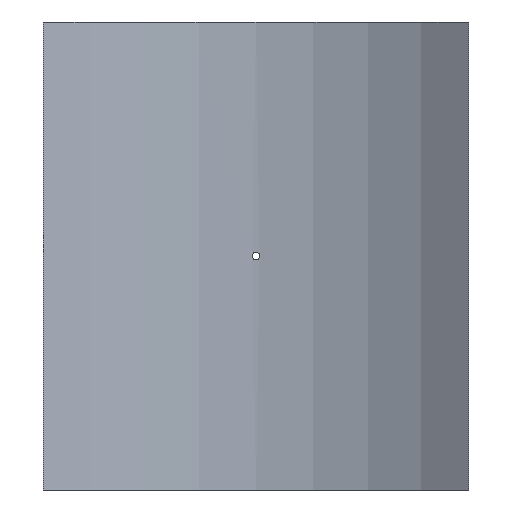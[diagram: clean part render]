
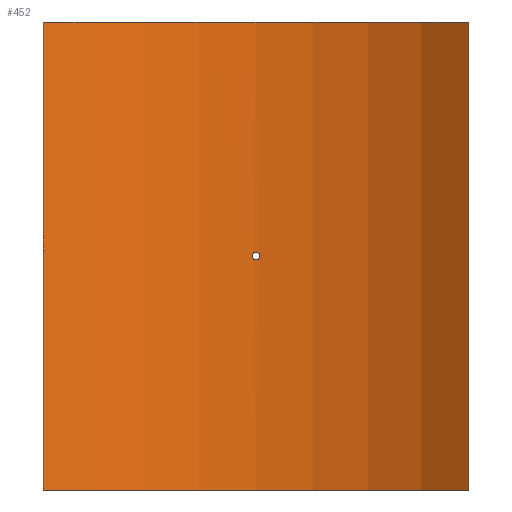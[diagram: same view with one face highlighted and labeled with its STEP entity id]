
A CAD part, front view. The second image highlights one B-rep face of the part: STEP entity #452.
In plain terms, the highlighted cylindrical face has radius 450 mm (diameter 900 mm), a partial arc.
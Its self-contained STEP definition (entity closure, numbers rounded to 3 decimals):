
#19=B_SPLINE_CURVE_WITH_KNOTS('',3,(#788,#789,#790,#791,#792,#793,#794,
#795,#796,#797,#798,#799,#800,#801,#802,#803,#804,#805,#806,#807,#808,#809,
#810,#811,#812,#813,#814,#815,#816,#817,#818,#819,#820,#821),
 .UNSPECIFIED.,.T.,.F.,(4,2,2,2,2,2,2,2,2,2,2,2,2,2,2,2,4),(0.,0.181,
0.362,0.542,0.723,0.904,
1.085,1.266,1.446,1.627,1.808,
1.989,2.17,2.351,2.531,2.712,
2.893),.UNSPECIFIED.);
#43=LINE('',#1081,#62);
#44=LINE('',#1084,#63);
#62=VECTOR('',#661,10.);
#63=VECTOR('',#664,10.);
#76=CYLINDRICAL_SURFACE('',#530,450.);
#88=FACE_BOUND('',#167,.T.);
#127=FACE_OUTER_BOUND('',#166,.T.);
#166=EDGE_LOOP('',(#405,#406,#407,#408));
#167=EDGE_LOOP('',(#409));
#201=CIRCLE('',#529,450.);
#202=CIRCLE('',#531,450.);
#219=VERTEX_POINT('',#786);
#242=VERTEX_POINT('',#1074);
#243=VERTEX_POINT('',#1076);
#244=VERTEX_POINT('',#1080);
#245=VERTEX_POINT('',#1082);
#267=EDGE_CURVE('',#219,#219,#19,.T.);
#299=EDGE_CURVE('',#242,#243,#201,.T.);
#301=EDGE_CURVE('',#244,#242,#43,.T.);
#302=EDGE_CURVE('',#245,#244,#202,.T.);
#303=EDGE_CURVE('',#245,#243,#44,.T.);
#405=ORIENTED_EDGE('',*,*,#301,.F.);
#406=ORIENTED_EDGE('',*,*,#302,.F.);
#407=ORIENTED_EDGE('',*,*,#303,.T.);
#408=ORIENTED_EDGE('',*,*,#299,.F.);
#409=ORIENTED_EDGE('',*,*,#267,.T.);
#452=ADVANCED_FACE('',(#127,#88),#76,.F.);
#529=AXIS2_PLACEMENT_3D('',#1077,#656,#657);
#530=AXIS2_PLACEMENT_3D('',#1079,#659,#660);
#531=AXIS2_PLACEMENT_3D('',#1083,#662,#663);
#656=DIRECTION('center_axis',(0.,0.,1.));
#657=DIRECTION('ref_axis',(0.616,0.788,0.));
#659=DIRECTION('center_axis',(0.,0.,1.));
#660=DIRECTION('ref_axis',(0.616,0.788,0.));
#661=DIRECTION('',(0.,0.,-1.));
#662=DIRECTION('center_axis',(0.,0.,-1.));
#663=DIRECTION('ref_axis',(0.616,0.788,0.));
#664=DIRECTION('',(0.,0.,-1.));
#786=CARTESIAN_POINT('',(4.8,449.974,0.));
#788=CARTESIAN_POINT('Ctrl Pts',(4.8,449.974,0.));
#789=CARTESIAN_POINT('Ctrl Pts',(4.8,449.974,-0.603));
#790=CARTESIAN_POINT('Ctrl Pts',(4.68,449.976,-1.246));
#791=CARTESIAN_POINT('Ctrl Pts',(4.19,449.981,-2.428));
#792=CARTESIAN_POINT('Ctrl Pts',(3.82,449.984,-2.968));
#793=CARTESIAN_POINT('Ctrl Pts',(2.968,449.99,-3.82));
#794=CARTESIAN_POINT('Ctrl Pts',(2.428,449.994,-4.19));
#795=CARTESIAN_POINT('Ctrl Pts',(1.246,449.999,-4.68));
#796=CARTESIAN_POINT('Ctrl Pts',(0.603,450.,-4.8));
#797=CARTESIAN_POINT('Ctrl Pts',(-0.603,450.,-4.8));
#798=CARTESIAN_POINT('Ctrl Pts',(-1.246,449.999,-4.68));
#799=CARTESIAN_POINT('Ctrl Pts',(-2.428,449.994,-4.19));
#800=CARTESIAN_POINT('Ctrl Pts',(-2.968,449.99,-3.82));
#801=CARTESIAN_POINT('Ctrl Pts',(-3.82,449.984,-2.968));
#802=CARTESIAN_POINT('Ctrl Pts',(-4.19,449.981,-2.428));
#803=CARTESIAN_POINT('Ctrl Pts',(-4.68,449.976,-1.246));
#804=CARTESIAN_POINT('Ctrl Pts',(-4.8,449.974,-0.603));
#805=CARTESIAN_POINT('Ctrl Pts',(-4.8,449.974,0.603));
#806=CARTESIAN_POINT('Ctrl Pts',(-4.68,449.976,1.246));
#807=CARTESIAN_POINT('Ctrl Pts',(-4.19,449.981,2.428));
#808=CARTESIAN_POINT('Ctrl Pts',(-3.82,449.984,2.968));
#809=CARTESIAN_POINT('Ctrl Pts',(-2.968,449.99,3.82));
#810=CARTESIAN_POINT('Ctrl Pts',(-2.428,449.994,4.19));
#811=CARTESIAN_POINT('Ctrl Pts',(-1.246,449.999,4.68));
#812=CARTESIAN_POINT('Ctrl Pts',(-0.603,450.,4.8));
#813=CARTESIAN_POINT('Ctrl Pts',(0.603,450.,4.8));
#814=CARTESIAN_POINT('Ctrl Pts',(1.246,449.999,4.68));
#815=CARTESIAN_POINT('Ctrl Pts',(2.428,449.994,4.19));
#816=CARTESIAN_POINT('Ctrl Pts',(2.968,449.99,3.82));
#817=CARTESIAN_POINT('Ctrl Pts',(3.82,449.984,2.968));
#818=CARTESIAN_POINT('Ctrl Pts',(4.19,449.981,2.428));
#819=CARTESIAN_POINT('Ctrl Pts',(4.68,449.976,1.246));
#820=CARTESIAN_POINT('Ctrl Pts',(4.8,449.974,0.603));
#821=CARTESIAN_POINT('Ctrl Pts',(4.8,449.974,0.));
#1074=CARTESIAN_POINT('',(277.,354.642,-305.));
#1076=CARTESIAN_POINT('',(-277.,354.642,-305.));
#1077=CARTESIAN_POINT('Origin',(0.,0.,
-305.));
#1079=CARTESIAN_POINT('Origin',(0.,0.,
0.));
#1080=CARTESIAN_POINT('',(277.,354.642,305.));
#1081=CARTESIAN_POINT('',(277.,354.642,0.));
#1082=CARTESIAN_POINT('',(-277.,354.642,305.));
#1083=CARTESIAN_POINT('Origin',(0.,0.,
305.));
#1084=CARTESIAN_POINT('',(-277.,354.642,0.));
